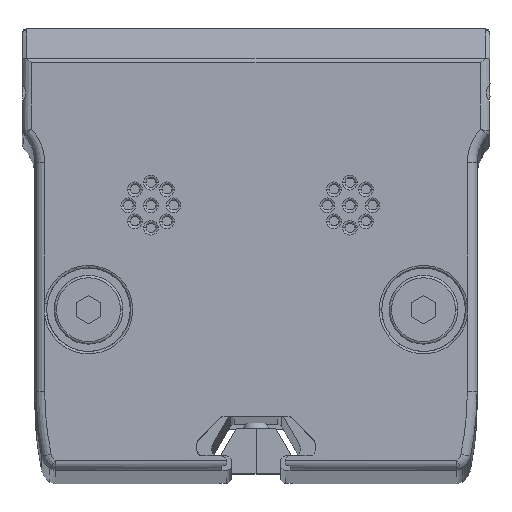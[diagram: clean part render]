
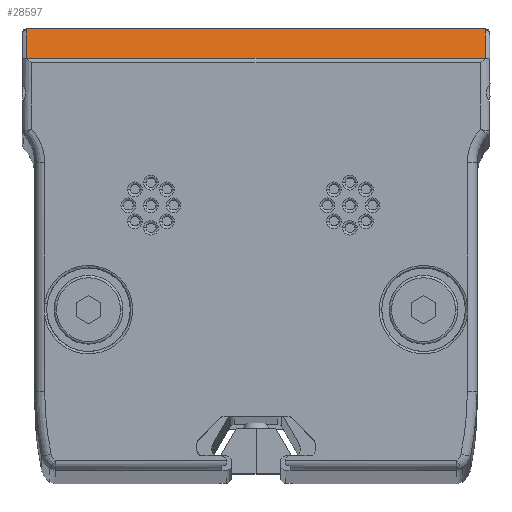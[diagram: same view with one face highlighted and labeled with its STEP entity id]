
A CAD part, top view. The second image highlights one B-rep face of the part: STEP entity #28597.
In plain terms, the highlighted planar face has unit normal (0, 0.858, 0.514).
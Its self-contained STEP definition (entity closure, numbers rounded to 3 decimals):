
#86 = CARTESIAN_POINT ( 'NONE',  ( 23.215, 22.429, 754.914 ) ) ;
#157 =( BOUNDED_CURVE ( )  B_SPLINE_CURVE ( 3, ( #28616, #13279, #19707, #13427 ),
 .UNSPECIFIED., .F., .F. ) 
 B_SPLINE_CURVE_WITH_KNOTS ( ( 4, 4 ),
 ( 0., 1.571 ),
 .UNSPECIFIED. ) 
 CURVE ( )  GEOMETRIC_REPRESENTATION_ITEM ( )  RATIONAL_B_SPLINE_CURVE ( ( 1., 0.805, 0.805, 1. ) ) 
 REPRESENTATION_ITEM ( '' )  );
#288 = ORIENTED_EDGE ( 'NONE', *, *, #13157, .T. ) ;
#382 = CARTESIAN_POINT ( 'NONE',  ( 23.315, 22.387, 754.983 ) ) ;
#631 = VECTOR ( 'NONE', #19755, 1000. ) ;
#772 = CARTESIAN_POINT ( 'NONE',  ( 23.315, 19.433, 759.907 ) ) ;
#778 = CARTESIAN_POINT ( 'NONE',  ( 23.215, 22.429, 754.914 ) ) ;
#1030 = LINE ( 'NONE', #12407, #22019 ) ;
#2240 = VERTEX_POINT ( 'NONE', #12612 ) ;
#2664 = VERTEX_POINT ( 'NONE', #9430 ) ;
#3918 = ORIENTED_EDGE ( 'NONE', *, *, #11548, .T. ) ;
#4074 = CARTESIAN_POINT ( 'NONE',  ( -23.315, 19.287, 760.15 ) ) ;
#4213 = DIRECTION ( 'NONE',  ( 0., -0.857, -0.514 ) ) ;
#4234 = CARTESIAN_POINT ( 'NONE',  ( -23.315, 19.433, 759.907 ) ) ;
#4324 =( BOUNDED_CURVE ( )  B_SPLINE_CURVE ( 3, ( #6918, #382, #22636, #86 ),
 .UNSPECIFIED., .F., .F. ) 
 B_SPLINE_CURVE_WITH_KNOTS ( ( 4, 4 ),
 ( 4.712, 6.283 ),
 .UNSPECIFIED. ) 
 CURVE ( )  GEOMETRIC_REPRESENTATION_ITEM ( )  RATIONAL_B_SPLINE_CURVE ( ( 1., 0.805, 0.805, 1. ) ) 
 REPRESENTATION_ITEM ( '' )  );
#4466 = CARTESIAN_POINT ( 'NONE',  ( -23.215, 22.429, 754.914 ) ) ;
#5191 = LINE ( 'NONE', #16556, #7679 ) ;
#6417 = FACE_OUTER_BOUND ( 'NONE', #10573, .T. ) ;
#6575 = DIRECTION ( 'NONE',  ( 0., -0.514, 0.857 ) ) ;
#6918 = CARTESIAN_POINT ( 'NONE',  ( 23.315, 22.329, 755.08 ) ) ;
#7445 = CARTESIAN_POINT ( 'NONE',  ( 23.215, 22.429, 754.914 ) ) ;
#7679 = VECTOR ( 'NONE', #23274, 1000. ) ;
#8026 = LINE ( 'NONE', #10685, #631 ) ;
#8643 = VERTEX_POINT ( 'NONE', #772 ) ;
#9148 = CARTESIAN_POINT ( 'NONE',  ( 23.215, 22.429, 754.914 ) ) ;
#9430 = CARTESIAN_POINT ( 'NONE',  ( 23.215, 22.429, 754.914 ) ) ;
#10573 = EDGE_LOOP ( 'NONE', ( #12420, #3918, #17586, #28860, #12145, #288, #15609 ) ) ;
#10685 = CARTESIAN_POINT ( 'NONE',  ( 23.82, 19.433, 759.907 ) ) ;
#10880 = EDGE_CURVE ( 'NONE', #2664, #11234, #21556, .T. ) ;
#11234 = VERTEX_POINT ( 'NONE', #9148 ) ;
#11548 = EDGE_CURVE ( 'NONE', #8643, #2240, #1030, .T. ) ;
#12145 = ORIENTED_EDGE ( 'NONE', *, *, #21867, .T. ) ;
#12170 = CARTESIAN_POINT ( 'NONE',  ( 23.215, 22.429, 754.914 ) ) ;
#12407 = CARTESIAN_POINT ( 'NONE',  ( 23.315, 19.287, 760.15 ) ) ;
#12420 = ORIENTED_EDGE ( 'NONE', *, *, #20931, .T. ) ;
#12612 = CARTESIAN_POINT ( 'NONE',  ( 23.315, 22.329, 755.08 ) ) ;
#13157 = EDGE_CURVE ( 'NONE', #19503, #27579, #157, .T. ) ;
#13216 = DIRECTION ( 'NONE',  ( 0., 0.514, -0.857 ) ) ;
#13279 = CARTESIAN_POINT ( 'NONE',  ( -23.274, 22.429, 754.914 ) ) ;
#13427 = CARTESIAN_POINT ( 'NONE',  ( -23.315, 22.329, 755.08 ) ) ;
#13814 = EDGE_CURVE ( 'NONE', #27579, #24089, #20093, .T. ) ;
#15442 = PLANE ( 'NONE',  #20792 ) ;
#15609 = ORIENTED_EDGE ( 'NONE', *, *, #13814, .T. ) ;
#16556 = CARTESIAN_POINT ( 'NONE',  ( -23.215, 22.429, 754.914 ) ) ;
#17586 = ORIENTED_EDGE ( 'NONE', *, *, #21296, .T. ) ;
#19503 = VERTEX_POINT ( 'NONE', #4466 ) ;
#19707 = CARTESIAN_POINT ( 'NONE',  ( -23.315, 22.387, 754.983 ) ) ;
#19755 = DIRECTION ( 'NONE',  ( 1., 0., 0. ) ) ;
#20093 = LINE ( 'NONE', #4074, #21257 ) ;
#20792 = AXIS2_PLACEMENT_3D ( 'NONE', #24515, #4213, #13216 ) ;
#20931 = EDGE_CURVE ( 'NONE', #24089, #8643, #8026, .T. ) ;
#21257 = VECTOR ( 'NONE', #6575, 1000. ) ;
#21296 = EDGE_CURVE ( 'NONE', #2240, #2664, #4324, .T. ) ;
#21499 = DIRECTION ( 'NONE',  ( 0., 0.514, -0.857 ) ) ;
#21556 =( BOUNDED_CURVE ( )  B_SPLINE_CURVE ( 3, ( #24379, #12170, #778, #7445 ),
 .UNSPECIFIED., .F., .F. ) 
 B_SPLINE_CURVE_WITH_KNOTS ( ( 4, 4 ),
 ( 6.283, 6.283 ),
 .UNSPECIFIED. ) 
 CURVE ( )  GEOMETRIC_REPRESENTATION_ITEM ( )  RATIONAL_B_SPLINE_CURVE ( ( 1., 1., 1., 1. ) ) 
 REPRESENTATION_ITEM ( '' )  );
#21867 = EDGE_CURVE ( 'NONE', #11234, #19503, #5191, .T. ) ;
#22019 = VECTOR ( 'NONE', #21499, 1000. ) ;
#22636 = CARTESIAN_POINT ( 'NONE',  ( 23.274, 22.429, 754.914 ) ) ;
#23274 = DIRECTION ( 'NONE',  ( -1., 0., 0. ) ) ;
#23574 = CARTESIAN_POINT ( 'NONE',  ( -23.315, 22.329, 755.08 ) ) ;
#24089 = VERTEX_POINT ( 'NONE', #4234 ) ;
#24379 = CARTESIAN_POINT ( 'NONE',  ( 23.215, 22.429, 754.914 ) ) ;
#24515 = CARTESIAN_POINT ( 'NONE',  ( 23.82, 19.287, 760.15 ) ) ;
#27579 = VERTEX_POINT ( 'NONE', #23574 ) ;
#28597 = ADVANCED_FACE ( 'NONE', ( #6417 ), #15442, .F. ) ;
#28616 = CARTESIAN_POINT ( 'NONE',  ( -23.215, 22.429, 754.914 ) ) ;
#28860 = ORIENTED_EDGE ( 'NONE', *, *, #10880, .T. ) ;
